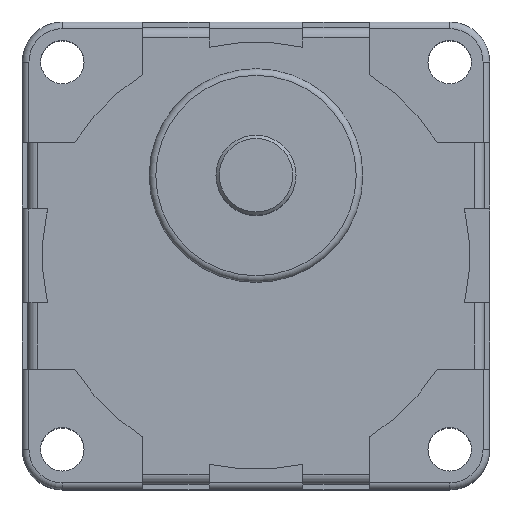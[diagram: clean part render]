
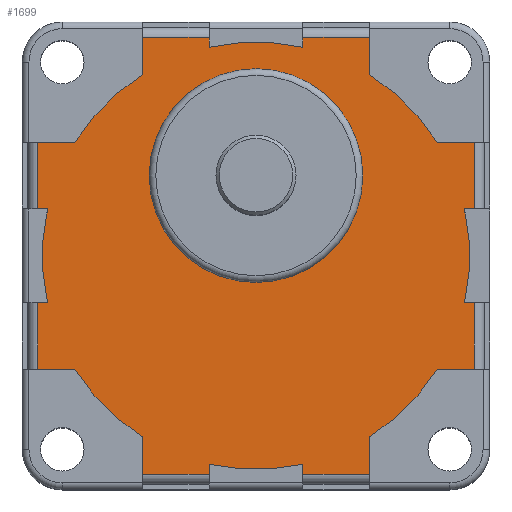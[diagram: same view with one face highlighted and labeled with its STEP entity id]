
A CAD part, top view. The second image highlights one B-rep face of the part: STEP entity #1699.
In plain terms, the highlighted planar face has unit normal (0, 0, 1).
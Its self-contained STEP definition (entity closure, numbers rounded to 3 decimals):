
#25=LINE('',#2566,#188);
#29=LINE('',#2578,#192);
#31=LINE('',#2584,#194);
#32=LINE('',#2588,#195);
#33=LINE('',#2590,#196);
#34=LINE('',#2592,#197);
#35=LINE('',#2596,#198);
#36=LINE('',#2598,#199);
#37=LINE('',#2600,#200);
#38=LINE('',#2604,#201);
#39=LINE('',#2606,#202);
#40=LINE('',#2608,#203);
#41=LINE('',#2612,#204);
#42=LINE('',#2614,#205);
#43=LINE('',#2616,#206);
#44=LINE('',#2620,#207);
#45=LINE('',#2622,#208);
#46=LINE('',#2624,#209);
#47=LINE('',#2628,#210);
#48=LINE('',#2630,#211);
#49=LINE('',#2632,#212);
#50=LINE('',#2635,#213);
#51=LINE('',#2637,#214);
#52=LINE('',#2640,#215);
#188=VECTOR('',#2044,10.);
#192=VECTOR('',#2054,10.);
#194=VECTOR('',#2060,5.589);
#195=VECTOR('',#2063,5.589);
#196=VECTOR('',#2064,10.);
#197=VECTOR('',#2065,1.475);
#198=VECTOR('',#2068,1.475);
#199=VECTOR('',#2069,10.);
#200=VECTOR('',#2070,5.589);
#201=VECTOR('',#2073,5.589);
#202=VECTOR('',#2074,10.);
#203=VECTOR('',#2075,1.475);
#204=VECTOR('',#2078,1.475);
#205=VECTOR('',#2079,10.);
#206=VECTOR('',#2080,5.589);
#207=VECTOR('',#2083,5.589);
#208=VECTOR('',#2084,10.);
#209=VECTOR('',#2085,1.475);
#210=VECTOR('',#2088,1.475);
#211=VECTOR('',#2089,10.);
#212=VECTOR('',#2090,5.589);
#213=VECTOR('',#2093,5.589);
#214=VECTOR('',#2094,1.475);
#215=VECTOR('',#2097,1.475);
#352=PLANE('',#1822);
#450=FACE_BOUND('',#588,.T.);
#475=FACE_OUTER_BOUND('',#587,.T.);
#587=EDGE_LOOP('',(#1229,#1230,#1231,#1232,#1233,#1234,#1235,#1236,#1237,
#1238,#1239,#1240,#1241,#1242,#1243,#1244,#1245,#1246,#1247,#1248,#1249,
#1250,#1251,#1252,#1253,#1254,#1255,#1256,#1257,#1258,#1259,#1260));
#588=EDGE_LOOP('',(#1261));
#696=CIRCLE('',#1813,16.);
#701=CIRCLE('',#1823,32.);
#702=CIRCLE('',#1824,32.);
#703=CIRCLE('',#1825,32.);
#704=CIRCLE('',#1826,32.);
#705=CIRCLE('',#1827,32.);
#706=CIRCLE('',#1828,32.);
#707=CIRCLE('',#1829,32.);
#708=CIRCLE('',#1830,32.);
#786=VERTEX_POINT('',#2555);
#787=VERTEX_POINT('',#2559);
#790=VERTEX_POINT('',#2564);
#794=VERTEX_POINT('',#2575);
#795=VERTEX_POINT('',#2577);
#797=VERTEX_POINT('',#2583);
#798=VERTEX_POINT('',#2585);
#799=VERTEX_POINT('',#2587);
#800=VERTEX_POINT('',#2589);
#801=VERTEX_POINT('',#2591);
#802=VERTEX_POINT('',#2593);
#803=VERTEX_POINT('',#2595);
#804=VERTEX_POINT('',#2597);
#805=VERTEX_POINT('',#2599);
#806=VERTEX_POINT('',#2601);
#807=VERTEX_POINT('',#2603);
#808=VERTEX_POINT('',#2605);
#809=VERTEX_POINT('',#2607);
#810=VERTEX_POINT('',#2609);
#811=VERTEX_POINT('',#2611);
#812=VERTEX_POINT('',#2613);
#813=VERTEX_POINT('',#2615);
#814=VERTEX_POINT('',#2617);
#815=VERTEX_POINT('',#2619);
#816=VERTEX_POINT('',#2621);
#817=VERTEX_POINT('',#2623);
#818=VERTEX_POINT('',#2625);
#819=VERTEX_POINT('',#2627);
#820=VERTEX_POINT('',#2629);
#821=VERTEX_POINT('',#2631);
#822=VERTEX_POINT('',#2633);
#823=VERTEX_POINT('',#2636);
#824=VERTEX_POINT('',#2638);
#956=EDGE_CURVE('',#786,#786,#696,.T.);
#960=EDGE_CURVE('',#790,#787,#25,.T.);
#965=EDGE_CURVE('',#794,#795,#29,.T.);
#968=EDGE_CURVE('',#790,#797,#31,.T.);
#969=EDGE_CURVE('',#798,#797,#701,.T.);
#970=EDGE_CURVE('',#799,#798,#32,.T.);
#971=EDGE_CURVE('',#800,#799,#33,.T.);
#972=EDGE_CURVE('',#801,#800,#34,.T.);
#973=EDGE_CURVE('',#802,#801,#702,.T.);
#974=EDGE_CURVE('',#802,#803,#35,.T.);
#975=EDGE_CURVE('',#804,#803,#36,.T.);
#976=EDGE_CURVE('',#804,#805,#37,.T.);
#977=EDGE_CURVE('',#806,#805,#703,.T.);
#978=EDGE_CURVE('',#807,#806,#38,.T.);
#979=EDGE_CURVE('',#808,#807,#39,.T.);
#980=EDGE_CURVE('',#809,#808,#40,.T.);
#981=EDGE_CURVE('',#810,#809,#704,.T.);
#982=EDGE_CURVE('',#810,#811,#41,.T.);
#983=EDGE_CURVE('',#812,#811,#42,.T.);
#984=EDGE_CURVE('',#812,#813,#43,.T.);
#985=EDGE_CURVE('',#814,#813,#705,.T.);
#986=EDGE_CURVE('',#815,#814,#44,.T.);
#987=EDGE_CURVE('',#816,#815,#45,.T.);
#988=EDGE_CURVE('',#817,#816,#46,.T.);
#989=EDGE_CURVE('',#818,#817,#706,.T.);
#990=EDGE_CURVE('',#818,#819,#47,.T.);
#991=EDGE_CURVE('',#820,#819,#48,.T.);
#992=EDGE_CURVE('',#820,#821,#49,.T.);
#993=EDGE_CURVE('',#822,#821,#707,.T.);
#994=EDGE_CURVE('',#795,#822,#50,.T.);
#995=EDGE_CURVE('',#823,#794,#51,.T.);
#996=EDGE_CURVE('',#824,#823,#708,.T.);
#997=EDGE_CURVE('',#824,#787,#52,.T.);
#1229=ORIENTED_EDGE('',*,*,#960,.F.);
#1230=ORIENTED_EDGE('',*,*,#968,.T.);
#1231=ORIENTED_EDGE('',*,*,#969,.F.);
#1232=ORIENTED_EDGE('',*,*,#970,.F.);
#1233=ORIENTED_EDGE('',*,*,#971,.F.);
#1234=ORIENTED_EDGE('',*,*,#972,.F.);
#1235=ORIENTED_EDGE('',*,*,#973,.F.);
#1236=ORIENTED_EDGE('',*,*,#974,.T.);
#1237=ORIENTED_EDGE('',*,*,#975,.F.);
#1238=ORIENTED_EDGE('',*,*,#976,.T.);
#1239=ORIENTED_EDGE('',*,*,#977,.F.);
#1240=ORIENTED_EDGE('',*,*,#978,.F.);
#1241=ORIENTED_EDGE('',*,*,#979,.F.);
#1242=ORIENTED_EDGE('',*,*,#980,.F.);
#1243=ORIENTED_EDGE('',*,*,#981,.F.);
#1244=ORIENTED_EDGE('',*,*,#982,.T.);
#1245=ORIENTED_EDGE('',*,*,#983,.F.);
#1246=ORIENTED_EDGE('',*,*,#984,.T.);
#1247=ORIENTED_EDGE('',*,*,#985,.F.);
#1248=ORIENTED_EDGE('',*,*,#986,.F.);
#1249=ORIENTED_EDGE('',*,*,#987,.F.);
#1250=ORIENTED_EDGE('',*,*,#988,.F.);
#1251=ORIENTED_EDGE('',*,*,#989,.F.);
#1252=ORIENTED_EDGE('',*,*,#990,.T.);
#1253=ORIENTED_EDGE('',*,*,#991,.F.);
#1254=ORIENTED_EDGE('',*,*,#992,.T.);
#1255=ORIENTED_EDGE('',*,*,#993,.F.);
#1256=ORIENTED_EDGE('',*,*,#994,.F.);
#1257=ORIENTED_EDGE('',*,*,#965,.F.);
#1258=ORIENTED_EDGE('',*,*,#995,.F.);
#1259=ORIENTED_EDGE('',*,*,#996,.F.);
#1260=ORIENTED_EDGE('',*,*,#997,.T.);
#1261=ORIENTED_EDGE('',*,*,#956,.F.);
#1699=ADVANCED_FACE('',(#475,#450),#352,.T.);
#1813=AXIS2_PLACEMENT_3D('',#2556,#2033,#2034);
#1822=AXIS2_PLACEMENT_3D('',#2582,#2058,#2059);
#1823=AXIS2_PLACEMENT_3D('',#2586,#2061,#2062);
#1824=AXIS2_PLACEMENT_3D('',#2594,#2066,#2067);
#1825=AXIS2_PLACEMENT_3D('',#2602,#2071,#2072);
#1826=AXIS2_PLACEMENT_3D('',#2610,#2076,#2077);
#1827=AXIS2_PLACEMENT_3D('',#2618,#2081,#2082);
#1828=AXIS2_PLACEMENT_3D('',#2626,#2086,#2087);
#1829=AXIS2_PLACEMENT_3D('',#2634,#2091,#2092);
#1830=AXIS2_PLACEMENT_3D('',#2639,#2095,#2096);
#2033=DIRECTION('center_axis',(0.,0.,1.));
#2034=DIRECTION('ref_axis',(-1.,0.,0.));
#2044=DIRECTION('',(0.,-1.,0.));
#2054=DIRECTION('',(0.,-1.,0.));
#2058=DIRECTION('center_axis',(0.,0.,1.));
#2059=DIRECTION('ref_axis',(1.,0.,0.));
#2060=DIRECTION('',(-1.,0.,0.));
#2061=DIRECTION('center_axis',(0.,0.,-1.));
#2062=DIRECTION('ref_axis',(-1.,0.,0.));
#2063=DIRECTION('',(0.,-1.,0.));
#2064=DIRECTION('',(1.,0.,0.));
#2065=DIRECTION('',(0.,1.,0.));
#2066=DIRECTION('center_axis',(0.,0.,-1.));
#2067=DIRECTION('ref_axis',(-1.,0.,0.));
#2068=DIRECTION('',(0.,1.,0.));
#2069=DIRECTION('',(1.,0.,0.));
#2070=DIRECTION('',(0.,-1.,0.));
#2071=DIRECTION('center_axis',(0.,0.,-1.));
#2072=DIRECTION('ref_axis',(-1.,0.,0.));
#2073=DIRECTION('',(1.,0.,0.));
#2074=DIRECTION('',(0.,1.,0.));
#2075=DIRECTION('',(-1.,0.,0.));
#2076=DIRECTION('center_axis',(0.,0.,-1.));
#2077=DIRECTION('ref_axis',(-1.,0.,0.));
#2078=DIRECTION('',(-1.,0.,0.));
#2079=DIRECTION('',(0.,1.,0.));
#2080=DIRECTION('',(1.,0.,0.));
#2081=DIRECTION('center_axis',(0.,0.,-1.));
#2082=DIRECTION('ref_axis',(-1.,0.,0.));
#2083=DIRECTION('',(0.,1.,0.));
#2084=DIRECTION('',(-1.,0.,0.));
#2085=DIRECTION('',(0.,-1.,0.));
#2086=DIRECTION('center_axis',(0.,0.,-1.));
#2087=DIRECTION('ref_axis',(-1.,0.,0.));
#2088=DIRECTION('',(0.,-1.,0.));
#2089=DIRECTION('',(-1.,0.,0.));
#2090=DIRECTION('',(0.,1.,0.));
#2091=DIRECTION('center_axis',(0.,0.,-1.));
#2092=DIRECTION('ref_axis',(-1.,0.,0.));
#2093=DIRECTION('',(-1.,0.,0.));
#2094=DIRECTION('',(1.,0.,0.));
#2095=DIRECTION('center_axis',(0.,0.,-1.));
#2096=DIRECTION('ref_axis',(-1.,0.,0.));
#2097=DIRECTION('',(1.,0.,0.));
#2555=CARTESIAN_POINT('',(16.,12.,42.2));
#2556=CARTESIAN_POINT('Origin',(0.,12.,42.2));
#2559=CARTESIAN_POINT('',(32.7,7.,42.2));
#2564=CARTESIAN_POINT('',(32.7,17.,42.2));
#2566=CARTESIAN_POINT('',(32.7,8.5,42.2));
#2575=CARTESIAN_POINT('',(32.7,-7.,42.2));
#2577=CARTESIAN_POINT('',(32.7,-17.,42.2));
#2578=CARTESIAN_POINT('',(32.7,-8.5,42.2));
#2582=CARTESIAN_POINT('Origin',(0.,0.,42.2));
#2583=CARTESIAN_POINT('',(27.111,17.,42.2));
#2584=CARTESIAN_POINT('',(27.111,17.,42.2));
#2585=CARTESIAN_POINT('',(17.,27.111,42.2));
#2586=CARTESIAN_POINT('Origin',(0.,0.,42.2));
#2587=CARTESIAN_POINT('',(17.,32.7,42.2));
#2588=CARTESIAN_POINT('',(17.,27.111,42.2));
#2589=CARTESIAN_POINT('',(7.,32.7,42.2));
#2590=CARTESIAN_POINT('',(8.5,32.7,42.2));
#2591=CARTESIAN_POINT('',(7.,31.225,42.2));
#2592=CARTESIAN_POINT('',(7.,35.,42.2));
#2593=CARTESIAN_POINT('',(-7.,31.225,42.2));
#2594=CARTESIAN_POINT('Origin',(0.,0.,42.2));
#2595=CARTESIAN_POINT('',(-7.,32.7,42.2));
#2596=CARTESIAN_POINT('',(-7.,35.,42.2));
#2597=CARTESIAN_POINT('',(-17.,32.7,42.2));
#2598=CARTESIAN_POINT('',(-8.5,32.7,42.2));
#2599=CARTESIAN_POINT('',(-17.,27.111,42.2));
#2600=CARTESIAN_POINT('',(-17.,27.111,42.2));
#2601=CARTESIAN_POINT('',(-27.111,17.,42.2));
#2602=CARTESIAN_POINT('Origin',(0.,0.,42.2));
#2603=CARTESIAN_POINT('',(-32.7,17.,42.2));
#2604=CARTESIAN_POINT('',(-27.111,17.,42.2));
#2605=CARTESIAN_POINT('',(-32.7,7.,42.2));
#2606=CARTESIAN_POINT('',(-32.7,8.5,42.2));
#2607=CARTESIAN_POINT('',(-31.225,7.,42.2));
#2608=CARTESIAN_POINT('',(-35.,7.,42.2));
#2609=CARTESIAN_POINT('',(-31.225,-7.,42.2));
#2610=CARTESIAN_POINT('Origin',(0.,0.,42.2));
#2611=CARTESIAN_POINT('',(-32.7,-7.,42.2));
#2612=CARTESIAN_POINT('',(-35.,-7.,42.2));
#2613=CARTESIAN_POINT('',(-32.7,-17.,42.2));
#2614=CARTESIAN_POINT('',(-32.7,-8.5,42.2));
#2615=CARTESIAN_POINT('',(-27.111,-17.,42.2));
#2616=CARTESIAN_POINT('',(-27.111,-17.,42.2));
#2617=CARTESIAN_POINT('',(-17.,-27.111,42.2));
#2618=CARTESIAN_POINT('Origin',(0.,0.,42.2));
#2619=CARTESIAN_POINT('',(-17.,-32.7,42.2));
#2620=CARTESIAN_POINT('',(-17.,-27.111,42.2));
#2621=CARTESIAN_POINT('',(-7.,-32.7,42.2));
#2622=CARTESIAN_POINT('',(-8.5,-32.7,42.2));
#2623=CARTESIAN_POINT('',(-7.,-31.225,42.2));
#2624=CARTESIAN_POINT('',(-7.,-35.,42.2));
#2625=CARTESIAN_POINT('',(7.,-31.225,42.2));
#2626=CARTESIAN_POINT('Origin',(0.,0.,42.2));
#2627=CARTESIAN_POINT('',(7.,-32.7,42.2));
#2628=CARTESIAN_POINT('',(7.,-35.,42.2));
#2629=CARTESIAN_POINT('',(17.,-32.7,42.2));
#2630=CARTESIAN_POINT('',(8.5,-32.7,42.2));
#2631=CARTESIAN_POINT('',(17.,-27.111,42.2));
#2632=CARTESIAN_POINT('',(17.,-27.111,42.2));
#2633=CARTESIAN_POINT('',(27.111,-17.,42.2));
#2634=CARTESIAN_POINT('Origin',(0.,0.,42.2));
#2635=CARTESIAN_POINT('',(27.111,-17.,42.2));
#2636=CARTESIAN_POINT('',(31.225,-7.,42.2));
#2637=CARTESIAN_POINT('',(35.,-7.,42.2));
#2638=CARTESIAN_POINT('',(31.225,7.,42.2));
#2639=CARTESIAN_POINT('Origin',(0.,0.,42.2));
#2640=CARTESIAN_POINT('',(35.,7.,42.2));
